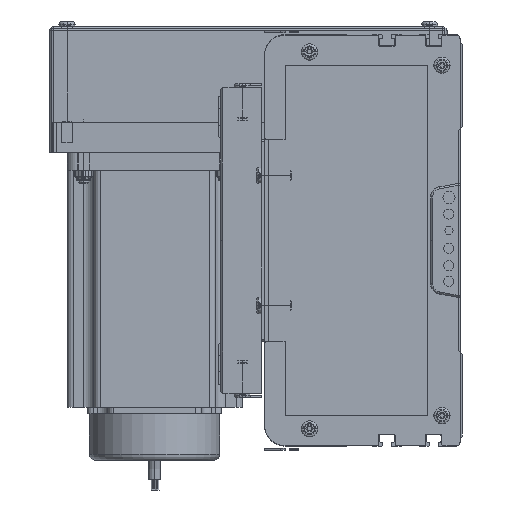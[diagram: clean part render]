
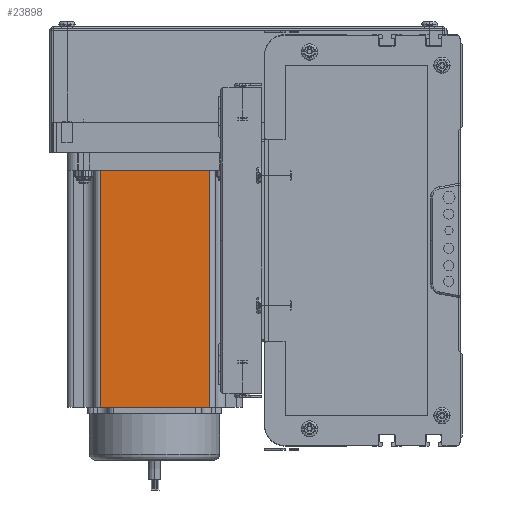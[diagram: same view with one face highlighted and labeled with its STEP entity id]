
A CAD part, left-side view. The second image highlights one B-rep face of the part: STEP entity #23898.
In plain terms, the highlighted planar face has unit normal (-1, 0, 0) as drawn and (0, -1, 0) by its records, which use the part's own axes.
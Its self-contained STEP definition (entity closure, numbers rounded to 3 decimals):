
#4330 = VECTOR ( 'NONE', #4575, 1000. ) ;
#4546 = CARTESIAN_POINT ( 'NONE',  ( 16.16, 0., 116.5 ) ) ;
#4575 = DIRECTION ( 'NONE',  ( 0., 0., -1. ) ) ;
#4656 = LINE ( 'NONE', #4546, #4330 ) ;
#4936 = DIRECTION ( 'NONE',  ( 1., 0., 0. ) ) ;
#4938 = VECTOR ( 'NONE', #4936, 1000. ) ;
#4940 = CARTESIAN_POINT ( 'NONE',  ( 0., 0., 0. ) ) ;
#5030 = LINE ( 'NONE', #4940, #4938 ) ;
#5359 = LINE ( 'NONE', #5608, #5607 ) ;
#5369 = DIRECTION ( 'NONE',  ( 0., 1., 0. ) ) ;
#5411 = FACE_OUTER_BOUND ( 'NONE', #23878, .T. ) ;
#5417 = CARTESIAN_POINT ( 'NONE',  ( 0., 0., 116.5 ) ) ;
#5420 = DIRECTION ( 'NONE',  ( 0., 0., 1. ) ) ;
#5498 = PLANE ( 'NONE',  #5510 ) ;
#5510 = AXIS2_PLACEMENT_3D ( 'NONE', #5417, #5369, #5420 ) ;
#5579 = CARTESIAN_POINT ( 'NONE',  ( 16.16, 0., 0. ) ) ;
#5581 = CARTESIAN_POINT ( 'NONE',  ( 69.74, 0., 116.5 ) ) ;
#5582 = CARTESIAN_POINT ( 'NONE',  ( 69.74, 0., 0. ) ) ;
#5607 = VECTOR ( 'NONE', #5734, 1000. ) ;
#5608 = CARTESIAN_POINT ( 'NONE',  ( 69.74, 0., 116.5 ) ) ;
#5734 = DIRECTION ( 'NONE',  ( 0., 0., 1. ) ) ;
#23326 = ORIENTED_EDGE ( 'NONE', *, *, #23814, .T. ) ;
#23459 = ORIENTED_EDGE ( 'NONE', *, *, #23460, .F. ) ;
#23460 = EDGE_CURVE ( 'NONE', #23468, #23906, #126449, .T. ) ;
#23468 = VERTEX_POINT ( 'NONE', #126445 ) ;
#23661 = EDGE_CURVE ( 'NONE', #23468, #23889, #4656, .T. ) ;
#23814 = EDGE_CURVE ( 'NONE', #23889, #23903, #5030, .T. ) ;
#23878 = EDGE_LOOP ( 'NONE', ( #23326, #23914, #23459, #23921 ) ) ;
#23889 = VERTEX_POINT ( 'NONE', #5579 ) ;
#23898 = ADVANCED_FACE ( 'NONE', ( #5411 ), #5498, .F. ) ;
#23903 = VERTEX_POINT ( 'NONE', #5582 ) ;
#23906 = VERTEX_POINT ( 'NONE', #5581 ) ;
#23914 = ORIENTED_EDGE ( 'NONE', *, *, #23919, .T. ) ;
#23919 = EDGE_CURVE ( 'NONE', #23903, #23906, #5359, .T. ) ;
#23921 = ORIENTED_EDGE ( 'NONE', *, *, #23661, .T. ) ;
#126345 = VECTOR ( 'NONE', #126446, 1000. ) ;
#126445 = CARTESIAN_POINT ( 'NONE',  ( 16.16, 0., 116.5 ) ) ;
#126446 = DIRECTION ( 'NONE',  ( 1., 0., 0. ) ) ;
#126448 = CARTESIAN_POINT ( 'NONE',  ( 0., 0., 116.5 ) ) ;
#126449 = LINE ( 'NONE', #126448, #126345 ) ;
